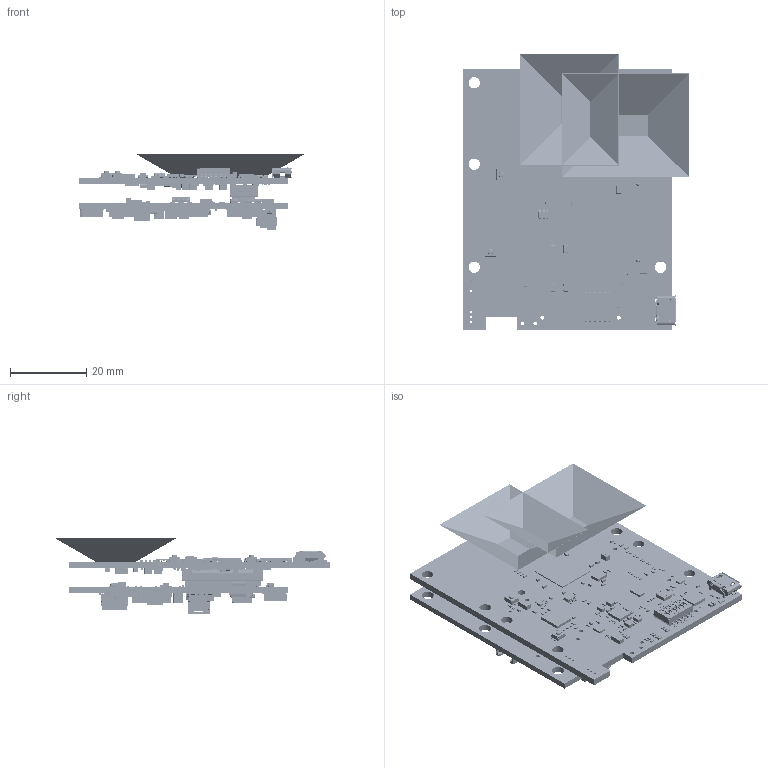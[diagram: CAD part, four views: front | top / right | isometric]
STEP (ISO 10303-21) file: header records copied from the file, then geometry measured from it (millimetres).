
FILE_DESCRIPTION(('FreeCAD Model'),'2;1');
FILE_NAME('Open CASCADE Shape Model','2026-02-09T12:26:49',(''),(''), 'Open CASCADE STEP processor 7.8','FreeCAD','Unknown');
FILE_SCHEMA(('AUTOMOTIVE_DESIGN { 1 0 10303 214 1 1 1 1 }'));
Length unit declared in the file: millimetre
Products named in the file (1382): Unnamed1; PCB_AP11004-B; Board; Open CASCADE STEP translator 7.5 1.1.1; D3; Diode_Kingbright_APHHS1005CGCK_eec; 1; 4; 2; color; U17; 8780744480; Extruded; C53; Cap_Murata_GRT0335C1E820GA02J_eec; Terminals; Center; Murta; S1; 218-6LP; R192; 8781482288; Extruded001; 8781482000; Extruded002; 8781482288001; L1; FBead_TDK_MPZ2012S101ATD25_eec; 1001; 2001; TDK Logo; L2; FBead_TDK_MPZ2012S101ATD25_eec001; 1002; TDK Logo001; L3; FBead_TDK_MPZ2012S101ATD25_eec002; 1003; TDK Logo002; L7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
Assembly tree (2365 placements, depth 6):
  Unnamed1
    PCB_AP11004-B
      Board
        Open CASCADE STEP translator 7.5 1.1.1
      D3
        Diode_Kingbright_APHHS1005CGCK_eec
          1
          4
          2
          color
      U17
        8780744480
          Extruded
      C53
        Cap_Murata_GRT0335C1E820GA02J_eec
          Terminals
          Center
          Murta
      S1
        218-6LP
      R192
        8781482288
          Extruded001
        8781482000
          Extruded002
        8781482288001
          Extruded001
      L1
        FBead_TDK_MPZ2012S101ATD25_eec
          1001
          2001
          TDK Logo
      L2
        FBead_TDK_MPZ2012S101ATD25_eec001
          1002
          2001
          TDK Logo001
      L3
        FBead_TDK_MPZ2012S101ATD25_eec002
          1003
          2001
          TDK Logo002
      L7
        FBead_TDK_MPZ2012S101ATD25_eec003
          1004
          2001
          TDK Logo003
      C83
        Cap_TDK_C2012X7R1E474K125AA_eec
          body
          side  x2
          TDK Logo004
      C81
        Cap_TDK_C2012X7R1E474K125AA_eec001
          body
          side  x2
          TDK Logo005
      C79
        Cap_TDK_C2012X7R1E474K125AA_eec002
          body
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Bounding box: 59.56 x 72.46 x 20.11 mm (x, y, z)
Volume: 13278.7 mm3; surface area: 27451.5 mm2
Topology: 2053 solids, 2061 shells, 33022 faces, 151840 edges, 326782 vertices
Faces by surface type: plane 22265, cylinder 4993, bspline 4558, sphere 941, torus 245, extrusion 16, cone 4
Full cylindrical faces by diameter (mm): 0.13 x1, 0.15 x1, 0.199 x1, 0.2 x2, 0.254 x1, 0.3 x1, 0.4 x2, 0.487 x1, 0.6 x6, 0.85 x2, 0.889 x4, 1.016 x5, 1.02 x8, 1.6 x2, 2.032 x1, 3 x8, 3.2 x6
Entity records: 1673998 total; most frequent: CARTESIAN_POINT 547683, DIRECTION 170008, ORIENTED_EDGE 115397, VECTOR 89322, LINE 89306, GEOMETRIC_CURVE_SET 68236, TRIMMED_CURVE 68032, EDGE_CURVE 57701
